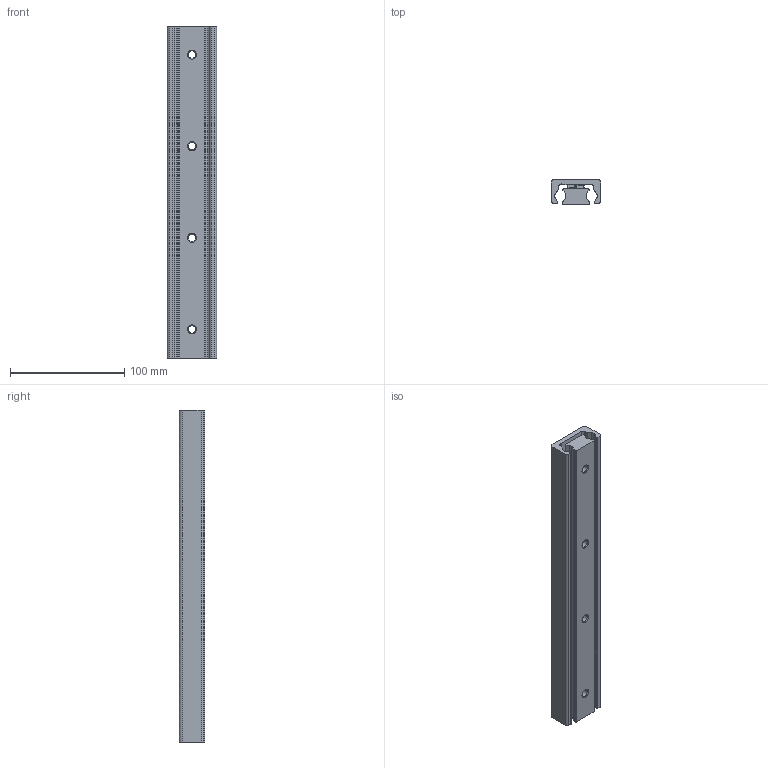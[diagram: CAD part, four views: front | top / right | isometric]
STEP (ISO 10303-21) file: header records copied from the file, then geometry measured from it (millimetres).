
FILE_DESCRIPTION(('STEP AP214'),'1');
FILE_NAME('rail_asn43-290_00.stp','2017-06-06T10:16:59',('TraceParts'),('TraceParts S.A.'),'Spatial InterOp 3D',' ',' ');
FILE_SCHEMA(('automotive_design'));
Length unit declared in the file: millimetre
Products named in the file (2): rail_asn43-290_00_1; rail_asn43-290_00_2
Bounding box: 43 x 22.01 x 290 mm (x, y, z)
Volume: 176645.3 mm3; surface area: 69600.6 mm2
Topology: 2 solids, 2 shells, 117 faces, 300 edges, 192 vertices
Faces by surface type: cylinder 47, plane 46, cone 24
Entity records: 3622 total; most frequent: DIRECTION 656, CARTESIAN_POINT 611, ORIENTED_EDGE 600, EDGE_CURVE 300, AXIS2_PLACEMENT_3D 237, VERTEX_POINT 192, LINE 182, VECTOR 182
